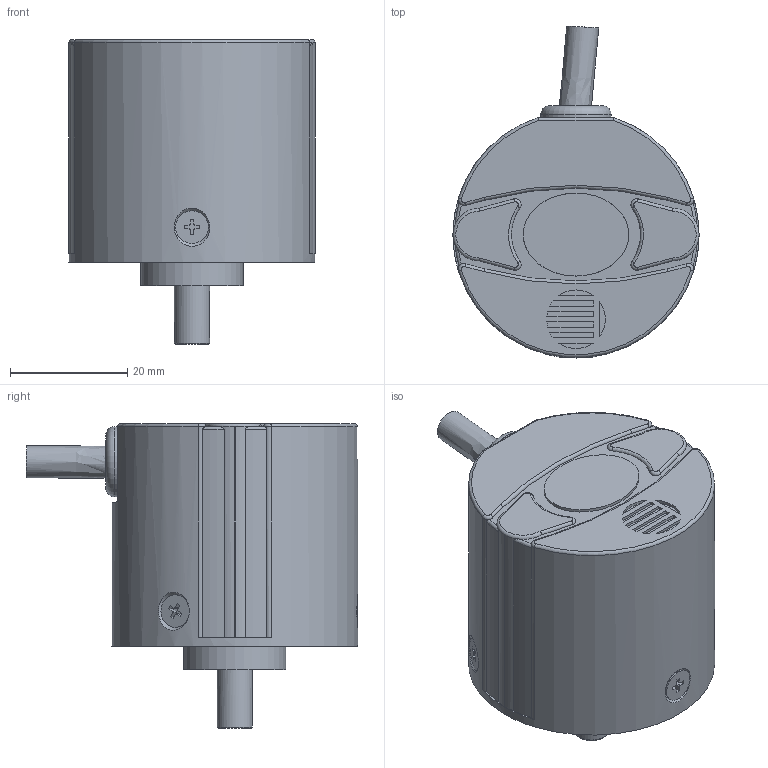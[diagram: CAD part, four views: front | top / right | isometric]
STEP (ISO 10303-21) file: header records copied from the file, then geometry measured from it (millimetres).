
FILE_DESCRIPTION( ( 'Unknown' ), '1' );
FILE_NAME( 'C:/Users/malfermoa/Desktop/step/EL40C.stp', 'Unknown', ( 'Unknown' ), ( 'Unknown' ), 'PSStep 15.0.49', 'Unknown', ' ' );
FILE_SCHEMA( ( 'AUTOMOTIVE_DESIGN { 1 0 10303 214 1 1 1 1 }' ) );
Length unit declared in the file: millimetre
Products named in the file (4): Assem1; 23220001B1; 41320006E1; 23290031 - 686 6x13x5
Assembly tree (3 placements, depth 2):
  Assem1
    23220001B1
    41320006E1
    23290031 - 686 6x13x5
Bounding box: 42 x 56.6 x 52 mm (x, y, z)
Volume: 23132.1 mm3; surface area: 19593.7 mm2
Topology: 3 solids, 7 shells, 294 faces, 723 edges, 468 vertices
Faces by surface type: plane 120, cylinder 95, cone 33, torus 29, bspline 16, extrusion 1
Full cylindrical faces by diameter (mm): 2.5 x10, 5.6 x3, 6 x9, 8.5 x2, 8.997 x1, 10 x1, 10.5 x2, 12 x1, 13 x1, 17.46 x1, 22 x1, 24 x1, 36 x1, 38.8 x2, 39 x1, 42 x1
Entity records: 15687 total; most frequent: CARTESIAN_POINT 7112, DIRECTION 1290, ORIENTED_EDGE 1176, EDGE_CURVE 588, AXIS2_PLACEMENT_3D 515, VERTEX_POINT 424, EDGE_LOOP 393, FACE_OUTER_BOUND 327
